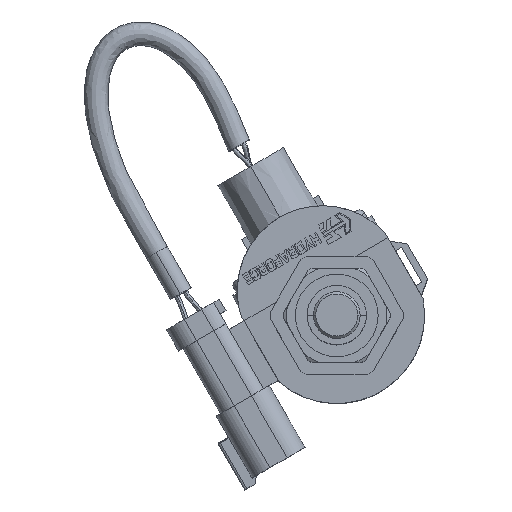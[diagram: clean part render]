
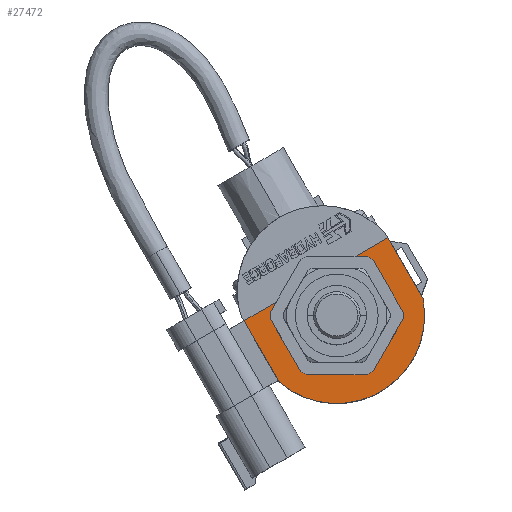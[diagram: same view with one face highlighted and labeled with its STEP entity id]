
A CAD part, top view. The second image highlights one B-rep face of the part: STEP entity #27472.
In plain terms, the highlighted planar face has unit normal (0, 0, 1).
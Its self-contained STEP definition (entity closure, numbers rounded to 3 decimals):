
#7786=CARTESIAN_POINT('',(0.,0.,24.384));
#7787=DIRECTION('',(0.,0.,1.));
#7788=DIRECTION('',(-0.803,0.596,0.));
#7789=AXIS2_PLACEMENT_3D('',#7786,#7787,#7788);
#7791=CARTESIAN_POINT('',(0.,0.,24.384));
#7792=DIRECTION('',(0.,0.,1.));
#7793=DIRECTION('',(-1.,0.,0.));
#7794=AXIS2_PLACEMENT_3D('',#7791,#7792,#7793);
#7796=CARTESIAN_POINT('',(0.,0.,24.384));
#7797=DIRECTION('',(0.,0.,1.));
#7798=DIRECTION('',(1.,0.,0.));
#7799=AXIS2_PLACEMENT_3D('',#7796,#7797,#7798);
#7801=DIRECTION('',(0.,1.,0.));
#7802=VECTOR('',#7801,2.921);
#7803=CARTESIAN_POINT('',(11.214,8.331,24.384));
#7804=LINE('',#7803,#7802);
#7805=DIRECTION('',(1.,0.,0.));
#7806=VECTOR('',#7805,11.062);
#7807=CARTESIAN_POINT('',(11.214,11.252,24.384));
#7808=LINE('',#7807,#7806);
#7809=DIRECTION('',(0.,-1.,0.));
#7810=VECTOR('',#7809,18.923);
#7811=CARTESIAN_POINT('',(22.276,11.252,24.384));
#7812=LINE('',#7811,#7810);
#7813=CARTESIAN_POINT('',(0.,0.,24.384));
#7814=DIRECTION('',(0.,0.,-1.));
#7815=DIRECTION('',(0.946,-0.326,0.));
#7816=AXIS2_PLACEMENT_3D('',#7813,#7814,#7815);
#7818=DIRECTION('',(0.,1.,0.));
#7819=VECTOR('',#7818,18.923);
#7820=CARTESIAN_POINT('',(-22.276,-7.671,24.384));
#7821=LINE('',#7820,#7819);
#7822=DIRECTION('',(1.,0.,0.));
#7823=VECTOR('',#7822,11.062);
#7824=CARTESIAN_POINT('',(-22.276,11.252,24.384));
#7825=LINE('',#7824,#7823);
#7826=DIRECTION('',(0.,-1.,0.));
#7827=VECTOR('',#7826,2.921);
#7828=CARTESIAN_POINT('',(-11.214,11.252,24.384));
#7829=LINE('',#7828,#7827);
#17015=CARTESIAN_POINT('',(-22.276,11.252,24.384));
#17016=VERTEX_POINT('',#17015);
#17017=CARTESIAN_POINT('',(-22.276,-7.671,24.384));
#17018=VERTEX_POINT('',#17017);
#17029=CARTESIAN_POINT('',(-11.214,8.331,24.384));
#17030=CARTESIAN_POINT('',(-13.97,0.,24.384));
#17031=VERTEX_POINT('',#17029);
#17032=VERTEX_POINT('',#17030);
#17033=CARTESIAN_POINT('',(13.97,0.,24.384));
#17034=VERTEX_POINT('',#17033);
#17035=CARTESIAN_POINT('',(11.214,8.331,24.384));
#17036=VERTEX_POINT('',#17035);
#17037=CARTESIAN_POINT('',(11.214,11.252,24.384));
#17038=VERTEX_POINT('',#17037);
#17039=CARTESIAN_POINT('',(22.276,11.252,24.384));
#17040=VERTEX_POINT('',#17039);
#17041=CARTESIAN_POINT('',(22.276,-7.671,24.384));
#17042=VERTEX_POINT('',#17041);
#17043=CARTESIAN_POINT('',(-11.214,11.252,24.384));
#17044=VERTEX_POINT('',#17043);
#27446=CARTESIAN_POINT('',(0.,11.252,24.384));
#27447=DIRECTION('',(0.,0.,1.));
#27448=DIRECTION('',(0.,1.,0.));
#27449=AXIS2_PLACEMENT_3D('',#27446,#27447,#27448);
#27450=PLANE('',#27449);
#27452=ORIENTED_EDGE('',*,*,#27451,.T.);
#27454=ORIENTED_EDGE('',*,*,#27453,.T.);
#27456=ORIENTED_EDGE('',*,*,#27455,.T.);
#27458=ORIENTED_EDGE('',*,*,#27457,.T.);
#27460=ORIENTED_EDGE('',*,*,#27459,.T.);
#27462=ORIENTED_EDGE('',*,*,#27461,.T.);
#27464=ORIENTED_EDGE('',*,*,#27463,.T.);
#27465=ORIENTED_EDGE('',*,*,#27427,.T.);
#27467=ORIENTED_EDGE('',*,*,#27466,.T.);
#27469=ORIENTED_EDGE('',*,*,#27468,.T.);
#27470=EDGE_LOOP('',(#27452,#27454,#27456,#27458,#27460,#27462,#27464,#27465,
#27467,#27469));
#27471=FACE_OUTER_BOUND('',#27470,.F.);
#27472=ADVANCED_FACE('',(#27471),#27450,.T.);
#7790=CIRCLE('',#7789,13.97);
#7795=CIRCLE('',#7794,13.97);
#7800=CIRCLE('',#7799,13.97);
#7817=CIRCLE('',#7816,23.56);
#27427=EDGE_CURVE('',#17018,#17016,#7821,.T.);
#27451=EDGE_CURVE('',#17031,#17032,#7790,.T.);
#27453=EDGE_CURVE('',#17032,#17034,#7795,.T.);
#27455=EDGE_CURVE('',#17034,#17036,#7800,.T.);
#27457=EDGE_CURVE('',#17036,#17038,#7804,.T.);
#27459=EDGE_CURVE('',#17038,#17040,#7808,.T.);
#27461=EDGE_CURVE('',#17040,#17042,#7812,.T.);
#27463=EDGE_CURVE('',#17042,#17018,#7817,.T.);
#27466=EDGE_CURVE('',#17016,#17044,#7825,.T.);
#27468=EDGE_CURVE('',#17044,#17031,#7829,.T.);
